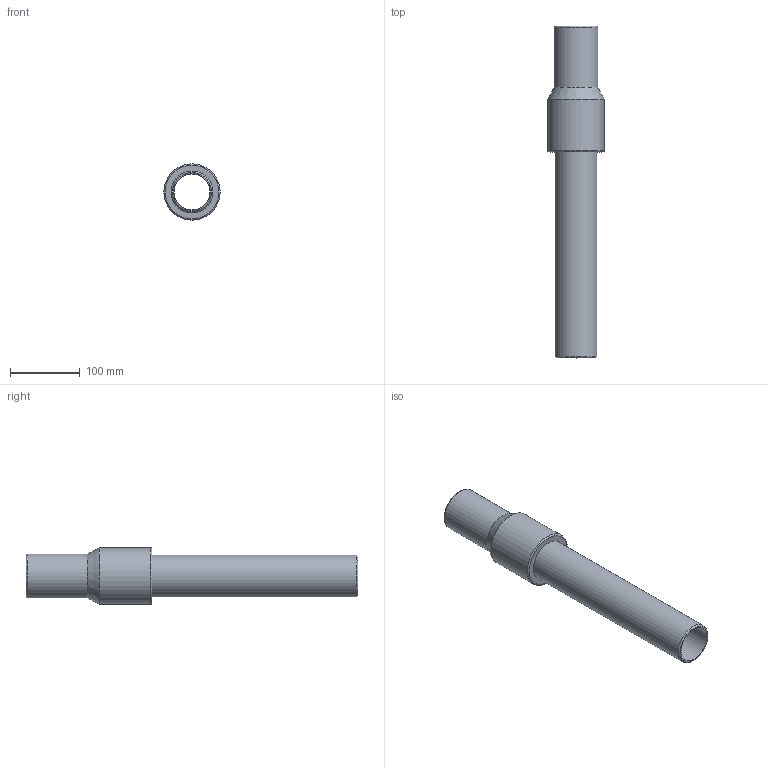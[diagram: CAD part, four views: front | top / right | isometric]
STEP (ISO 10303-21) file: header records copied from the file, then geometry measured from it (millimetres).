
FILE_DESCRIPTION(/* description */ ('Unknown'),/* implementation_level */ '2;1');
FILE_NAME(/* name */ 'RTSNP063C',/* time_stamp */ '2022-04-26T17:16:24+02:00',/* author */ ('Unknown'),/* organization */ ('Unknown'),/* preprocessor_version */ 'ST-DEVELOPER v18.1',/* originating_system */ 'Solid Edge',/* authorisation */ 'Unknown');
FILE_SCHEMA (('AUTOMOTIVE_DESIGN {1 0 10303 214 3 1 1}'));
Length unit declared in the file: millimetre
Products named in the file (3): RTSNP063C; Partea ACCIAIO; Parte PE_
Assembly tree (2 placements, depth 2):
  RTSNP063C
    Partea ACCIAIO
    Parte PE_
Bounding box: 81 x 477 x 81 mm (x, y, z)
Volume: 557705.1 mm3; surface area: 208385 mm2
Topology: 2 solids, 2 shells, 15 faces, 27 edges, 17 vertices
Faces by surface type: cylinder 6, plane 5, cone 2, torus 2
Full cylindrical faces by diameter (mm): 51.4 x1, 52.48 x1, 60.3 x2, 63 x1, 81 x1
Entity records: 388 total; most frequent: DIRECTION 66, CARTESIAN_POINT 48, AXIS2_PLACEMENT_3D 33, ORIENTED_EDGE 30, EDGE_LOOP 30, FACE_BOUND 30, EDGE_CURVE 15, VERTEX_POINT 15
